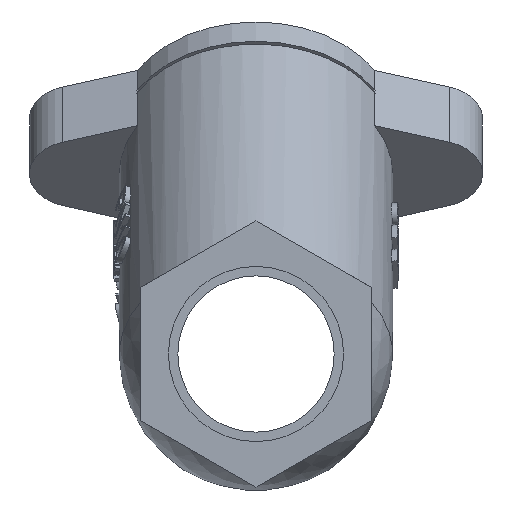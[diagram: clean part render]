
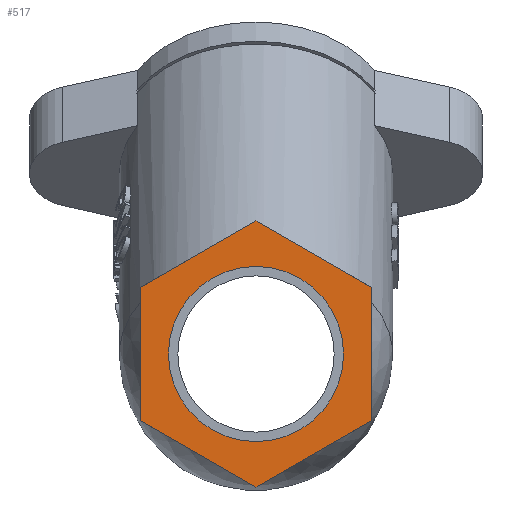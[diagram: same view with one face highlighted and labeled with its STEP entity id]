
A CAD part, left-side view. The second image highlights one B-rep face of the part: STEP entity #517.
In plain terms, the highlighted planar face has unit normal (-1, 0, 0).
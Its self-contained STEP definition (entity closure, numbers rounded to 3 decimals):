
#517 = ADVANCED_FACE( '', ( #1119, #1120 ), #1121, .T. );
#1119 = FACE_BOUND( '', #4470, .T. );
#1120 = FACE_OUTER_BOUND( '', #4471, .T. );
#1121 = PLANE( '', #4472 );
#4470 = EDGE_LOOP( '', ( #7682 ) );
#4471 = EDGE_LOOP( '', ( #7683, #7684, #7685, #7686, #7687, #7688 ) );
#4472 = AXIS2_PLACEMENT_3D( '', #7689, #7690, #7691 );
#7682 = ORIENTED_EDGE( '', *, *, #8512, .T. );
#7683 = ORIENTED_EDGE( '', *, *, #8561, .T. );
#7684 = ORIENTED_EDGE( '', *, *, #8609, .T. );
#7685 = ORIENTED_EDGE( '', *, *, #8601, .T. );
#7686 = ORIENTED_EDGE( '', *, *, #8595, .T. );
#7687 = ORIENTED_EDGE( '', *, *, #8646, .T. );
#7688 = ORIENTED_EDGE( '', *, *, #8733, .T. );
#7689 = CARTESIAN_POINT( '', ( -72.5, 0., 0. ) );
#7690 = DIRECTION( '', ( -1., 0., 0. ) );
#7691 = DIRECTION( '', ( 0., -1., 0. ) );
#8512 = EDGE_CURVE( '', #9487, #9487, #9488, .T. );
#8561 = EDGE_CURVE( '', #9556, #9554, #9557, .T. );
#8595 = EDGE_CURVE( '', #9604, #9602, #9605, .T. );
#8601 = EDGE_CURVE( '', #9612, #9604, #9613, .T. );
#8609 = EDGE_CURVE( '', #9554, #9612, #9623, .T. );
#8646 = EDGE_CURVE( '', #9602, #9668, #9670, .T. );
#8733 = EDGE_CURVE( '', #9668, #9556, #9774, .T. );
#9487 = VERTEX_POINT( '', #13491 );
#9488 = CIRCLE( '', #13492, 22.423 );
#9554 = VERTEX_POINT( '', #13865 );
#9556 = VERTEX_POINT( '', #13868 );
#9557 = LINE( '', #13869, #13870 );
#9602 = VERTEX_POINT( '', #14159 );
#9604 = VERTEX_POINT( '', #14162 );
#9605 = LINE( '', #14163, #14164 );
#9612 = VERTEX_POINT( '', #14176 );
#9613 = LINE( '', #14177, #14178 );
#9623 = LINE( '', #14195, #14196 );
#9668 = VERTEX_POINT( '', #14460 );
#9670 = LINE( '', #14463, #14464 );
#9774 = LINE( '', #14881, #14882 );
#13491 = CARTESIAN_POINT( '', ( -72.5, 0., 22.423 ) );
#13492 = AXIS2_PLACEMENT_3D( '', #15322, #15323, #15324 );
#13865 = CARTESIAN_POINT( '', ( -72.5, 0., 34.064 ) );
#13868 = CARTESIAN_POINT( '', ( -72.5, -29.5, 17.032 ) );
#13869 = CARTESIAN_POINT( '', ( -72.5, -29.5, 17.032 ) );
#13870 = VECTOR( '', #15331, 1000. );
#14159 = CARTESIAN_POINT( '', ( -72.5, 0., -34.064 ) );
#14162 = CARTESIAN_POINT( '', ( -72.5, 29.5, -17.032 ) );
#14163 = CARTESIAN_POINT( '', ( -72.5, 29.5, -17.032 ) );
#14164 = VECTOR( '', #15362, 1000. );
#14176 = CARTESIAN_POINT( '', ( -72.5, 29.5, 17.032 ) );
#14177 = CARTESIAN_POINT( '', ( -72.5, 29.5, 17.032 ) );
#14178 = VECTOR( '', #15365, 1000. );
#14195 = CARTESIAN_POINT( '', ( -72.5, 0., 34.064 ) );
#14196 = VECTOR( '', #15368, 1000. );
#14460 = CARTESIAN_POINT( '', ( -72.5, -29.5, -17.032 ) );
#14463 = CARTESIAN_POINT( '', ( -72.5, 0., -34.064 ) );
#14464 = VECTOR( '', #15381, 1000. );
#14881 = CARTESIAN_POINT( '', ( -72.5, -29.5, -17.032 ) );
#14882 = VECTOR( '', #15403, 1000. );
#15322 = CARTESIAN_POINT( '', ( -72.5, 0., 0. ) );
#15323 = DIRECTION( '', ( 1., 0., 0. ) );
#15324 = DIRECTION( '', ( 0., 0., 1. ) );
#15331 = DIRECTION( '', ( 0., 0.866, 0.5 ) );
#15362 = DIRECTION( '', ( 0., -0.866, -0.5 ) );
#15365 = DIRECTION( '', ( 0., 0., -1. ) );
#15368 = DIRECTION( '', ( 0., 0.866, -0.5 ) );
#15381 = DIRECTION( '', ( 0., -0.866, 0.5 ) );
#15403 = DIRECTION( '', ( 0., 0., 1. ) );
